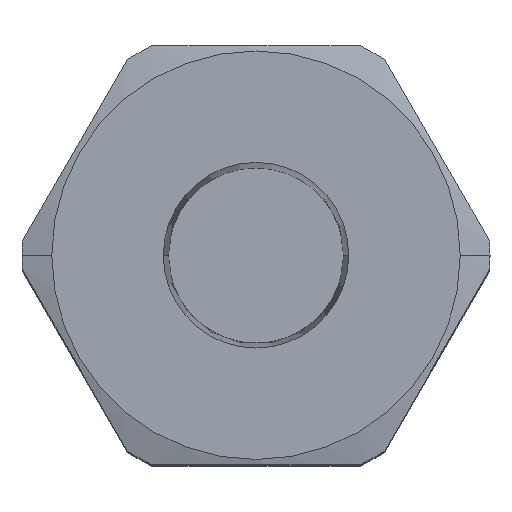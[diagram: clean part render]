
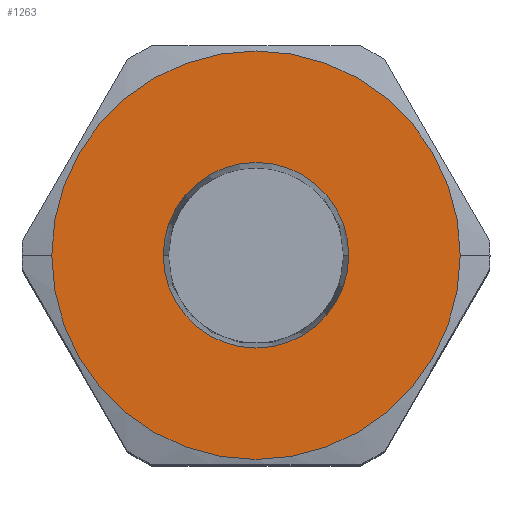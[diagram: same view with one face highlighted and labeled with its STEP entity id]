
A CAD part, top view. The second image highlights one B-rep face of the part: STEP entity #1263.
In plain terms, the highlighted planar face has unit normal (0, 0, 1).
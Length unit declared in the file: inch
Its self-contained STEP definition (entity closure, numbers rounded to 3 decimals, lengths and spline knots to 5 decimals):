
#20 = VERTEX_POINT ( 'NONE', #639 ) ;
#23 = VERTEX_POINT ( 'NONE', #642 ) ;
#141 = EDGE_CURVE ( 'NONE', #229, #20, #448, .T. ) ;
#229 = VERTEX_POINT ( 'NONE', #1139 ) ;
#240 = AXIS2_PLACEMENT_3D ( 'NONE', #1416, #1417, #1418 ) ;
#250 = CIRCLE ( 'NONE', #240, 0.3965 ) ;
#253 = AXIS2_PLACEMENT_3D ( 'NONE', #1075, #1076, #1077 ) ;
#256 = CIRCLE ( 'NONE', #260, 0.18012 ) ;
#260 = AXIS2_PLACEMENT_3D ( 'NONE', #1399, #1400, #1401 ) ;
#268 = CIRCLE ( 'NONE', #253, 0.3965 ) ;
#448 = CIRCLE ( 'NONE', #481, 0.18012 ) ;
#481 = AXIS2_PLACEMENT_3D ( 'NONE', #1337, #1338, #1339 ) ;
#537 = AXIS2_PLACEMENT_3D ( 'NONE', #950, #958, #959 ) ;
#639 = CARTESIAN_POINT ( 'NONE',  ( 0.18012, 0., 1.706 ) ) ;
#642 = CARTESIAN_POINT ( 'NONE',  ( 0.3965, 0., 1.706 ) ) ;
#732 = EDGE_LOOP ( 'NONE', ( #817, #891 ) ) ;
#734 = EDGE_LOOP ( 'NONE', ( #832, #886 ) ) ;
#817 = ORIENTED_EDGE ( 'NONE', *, *, #1211, .F. ) ;
#832 = ORIENTED_EDGE ( 'NONE', *, *, #1206, .F. ) ;
#886 = ORIENTED_EDGE ( 'NONE', *, *, #141, .F. ) ;
#891 = ORIENTED_EDGE ( 'NONE', *, *, #1199, .F. ) ;
#903 = VERTEX_POINT ( 'NONE', #1186 ) ;
#950 = CARTESIAN_POINT ( 'NONE',  ( 0.46939, 0., 1.706 ) ) ;
#954 = FACE_BOUND ( 'NONE', #734, .T. ) ;
#955 = FACE_OUTER_BOUND ( 'NONE', #732, .T. ) ;
#956 = PLANE ( 'NONE',  #537 ) ;
#958 = DIRECTION ( 'NONE',  ( 0., 0., 1. ) ) ;
#959 = DIRECTION ( 'NONE',  ( 1., 0., 0. ) ) ;
#1075 = CARTESIAN_POINT ( 'NONE',  ( 0., 0., 1.706 ) ) ;
#1076 = DIRECTION ( 'NONE',  ( 0., 0., -1. ) ) ;
#1077 = DIRECTION ( 'NONE',  ( -1., 0., 0. ) ) ;
#1139 = CARTESIAN_POINT ( 'NONE',  ( -0.18012, 0., 1.706 ) ) ;
#1186 = CARTESIAN_POINT ( 'NONE',  ( -0.3965, 0., 1.706 ) ) ;
#1199 = EDGE_CURVE ( 'NONE', #23, #903, #268, .T. ) ;
#1206 = EDGE_CURVE ( 'NONE', #20, #229, #256, .T. ) ;
#1211 = EDGE_CURVE ( 'NONE', #903, #23, #250, .T. ) ;
#1263 = ADVANCED_FACE ( 'NONE', ( #954, #955 ), #956, .T. ) ;
#1337 = CARTESIAN_POINT ( 'NONE',  ( 0., 0., 1.706 ) ) ;
#1338 = DIRECTION ( 'NONE',  ( 0., 0., 1. ) ) ;
#1339 = DIRECTION ( 'NONE',  ( 1., 0., 0. ) ) ;
#1399 = CARTESIAN_POINT ( 'NONE',  ( 0., 0., 1.706 ) ) ;
#1400 = DIRECTION ( 'NONE',  ( 0., 0., 1. ) ) ;
#1401 = DIRECTION ( 'NONE',  ( 1., 0., 0. ) ) ;
#1416 = CARTESIAN_POINT ( 'NONE',  ( 0., 0., 1.706 ) ) ;
#1417 = DIRECTION ( 'NONE',  ( 0., 0., -1. ) ) ;
#1418 = DIRECTION ( 'NONE',  ( -1., 0., 0. ) ) ;
